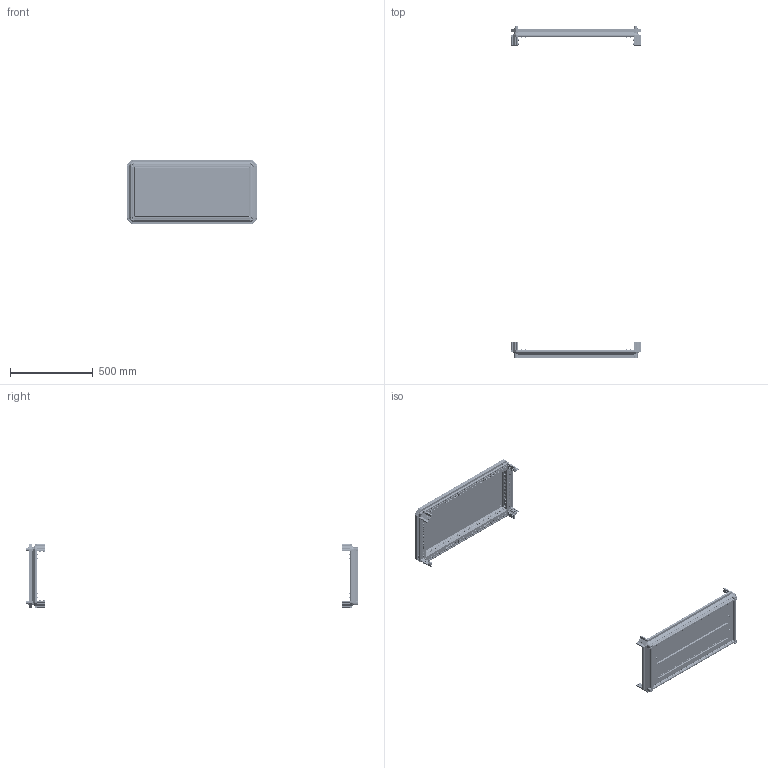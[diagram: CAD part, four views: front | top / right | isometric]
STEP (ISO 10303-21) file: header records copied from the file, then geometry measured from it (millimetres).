
FILE_DESCRIPTION (( 'STEP AP203' ), '1' );
FILE_NAME ('MA1.101.080420.00.00 AleSta-RB84 Êîìïëåêò êðûøà è îñíîâàíèå.STEP', '2025-02-19T13:59:24', ( '' ), ( '' ), 'SwSTEP 2.0', 'SolidWorks 2021', '' );
FILE_SCHEMA (( 'CONFIG_CONTROL_DESIGN' ));
Length unit declared in the file: millimetre
Products named in the file (19): Âèíò ñ âí. øåñòèãðàííèêîì M12 DIN912_•30; MA1.101.060620.20.00 Íèæíÿÿ ïàíåëü 600õ600_800å400; MA1.101.060620.00.02 Ïðîôèëü ïîïåðå÷íûé ñâàðíîé_02 L=698 (˜=800) ; MA1.100.060620.00.01 Ñîåäèíèòåëü óãëîâîé_00; ﾇﾀﾊﾋﾅﾏﾊﾀ ﾃﾀﾅﾗﾍﾀﾟ ﾘﾅﾑﾒﾈﾃﾐﾀﾍﾍﾀﾟ ﾑ ﾓﾌﾅﾍﾜﾘﾅﾍﾍﾛﾌ ﾁﾎﾐﾒﾎﾌ M4 X 11 (0.5-2.5 ﾌﾌ) HEX U-S ﾖﾈﾍﾊ; Øïèëüêà Ì6õ12_˜¯¨«ìª  Œ6å12; MA1.101.060620.10.01 Ïîëîòíî êðûøè 600õ600_800x400; Øàéáà ñòîïîðíàÿ ñ íàðóæíûìè çóáöàìè SCHNORR, òèï VS öèíêîâûå õëîïüÿ Ì6 O6,4 ART 88121_Œ6; Âèíò ðåçüáîâûäàâëèâàþùèé Ì6õ12 DIN 7500E_Œ6å10; MA1.101.060620.00.02 Ïðîôèëü ïîïåðå÷íûé ñâàðíîé_00 L=298 (˜=400); ﾘ琺矜 01.019 ﾃﾎﾑﾒ11371-78_12; MA1.101.060620.20.02 Çàêðûòèå íèæíåé ïàíåëè 600õ600_800å400; Âèíò_ðåçüáîâûäàâëèâàþùèé_Ì5õ12_DIN 7500E_Œ5å12; 7380-2 ISO Âèíòû ñ ïîëóêðóãëîé ãîëîâêîé ñ ôëàíöåì ñ âíóòðåííèì øåñòèãðàííèêîì Ì4õ10; MA1.101.080420.00.00 AleSta-RB84 Êîìïëåêò êðûøà è îñíîâàíèå; Óïëîòíèòåëü ïàíåëè íèæíåé_800å400; MA1.101.060620.10.00 Êðûøà 600x600_800å400; MA1.101.060620.20.01 Ïîëîòíî íèæíåé ïàíåëè 600õ600_800å400; ﾘ琺矜 65ﾃ 019 ﾃﾎﾑﾒ 6402-70_12
Assembly tree (215 placements, depth 3):
  MA1.101.080420.00.00 AleSta-RB84 Êîìïëåêò êðûøà è îñíîâàíèå
    MA1.101.060620.00.02 Ïðîôèëü ïîïåðå÷íûé ñâàðíîé_02 L=698 (˜=800)   x4
    MA1.101.060620.00.02 Ïðîôèëü ïîïåðå÷íûé ñâàðíîé_00 L=298 (˜=400)  x4
    MA1.101.060620.10.00 Êðûøà 600x600_800å400
      MA1.101.060620.10.01 Ïîëîòíî êðûøè 600õ600_800x400
      Øïèëüêà Ì6õ12_˜¯¨«ìª  Œ6å12  x4
      Óïëîòíèòåëü ïàíåëè íèæíåé_800å400
    MA1.101.060620.20.00 Íèæíÿÿ ïàíåëü 600õ600_800å400
      MA1.101.060620.20.01 Ïîëîòíî íèæíåé ïàíåëè 600õ600_800å400
      ﾇﾀﾊﾋﾅﾏﾊﾀ ﾃﾀﾅﾗﾍﾀﾟ ﾘﾅﾑﾒﾈﾃﾐﾀﾍﾍﾀﾟ ﾑ ﾓﾌﾅﾍﾜﾘﾅﾍﾍﾛﾌ ﾁﾎﾐﾒﾎﾌ M4 X 11 (0.5-2.5 ﾌﾌ) HEX U-S ﾖﾈﾍﾊ  x4
      MA1.101.060620.20.02 Çàêðûòèå íèæíåé ïàíåëè 600õ600_800å400  x2
      7380-2 ISO Âèíòû ñ ïîëóêðóãëîé ãîëîâêîé ñ ôëàíöåì ñ âíóòðåííèì øåñòèãðàííèêîì Ì4õ10  x4
    Âèíò_ðåçüáîâûäàâëèâàþùèé_Ì5õ12_DIN 7500E_Œ5å12  x8
    MA1.100.060620.00.01 Ñîåäèíèòåëü óãëîâîé_00  x8
    Âèíò ñ âí. øåñòèãðàííèêîì M12 DIN912_•30  x4
    Âèíò ðåçüáîâûäàâëèâàþùèé Ì6õ12 DIN 7500E_Œ6å10  x80
    ﾘ琺矜 01.019 ﾃﾎﾑﾒ11371-78_12  x4
    ﾘ琺矜 65ﾃ 019 ﾃﾎﾑﾒ 6402-70_12  x4
    Øàéáà ñòîïîðíàÿ ñ íàðóæíûìè çóáöàìè SCHNORR, òèï VS öèíêîâûå õëîïüÿ Ì6 O6,4 ART 88121_Œ6  x80
Bounding box: 792 x 2010.9 x 392 mm (x, y, z)
Volume: 3061269.9 mm3; surface area: 3016351.4 mm2
Topology: 213 solids, 213 shells, 11814 faces, 30568 edges, 19184 vertices
Faces by surface type: plane 8670, cylinder 2328, cone 520, bspline 248, torus 48
Entity records: 61416 total; most frequent: CARTESIAN_POINT 12763, DIRECTION 8514, ORIENTED_EDGE 8382, EDGE_CURVE 4191, LINE 3106, VECTOR 3106, AXIS2_PLACEMENT_3D 2704, VERTEX_POINT 2551
